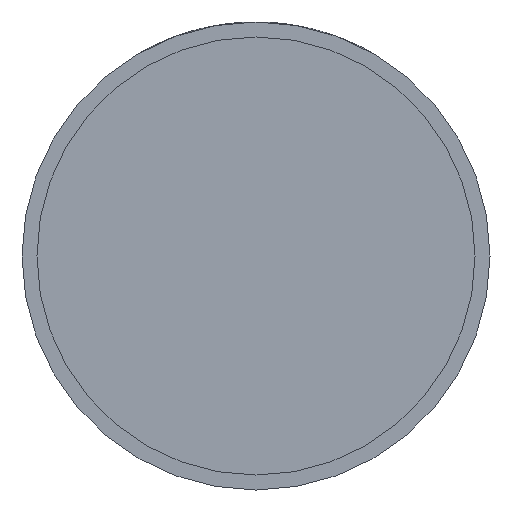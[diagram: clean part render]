
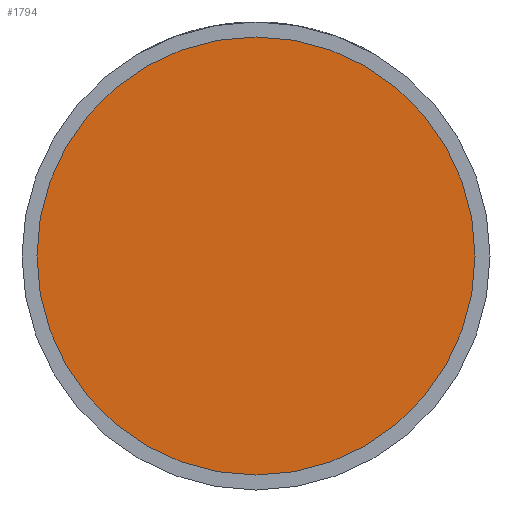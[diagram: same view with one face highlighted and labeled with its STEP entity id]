
A CAD part, front view. The second image highlights one B-rep face of the part: STEP entity #1794.
In plain terms, the highlighted planar face has unit normal (0, -1, 0).
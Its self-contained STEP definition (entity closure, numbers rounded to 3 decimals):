
#141 = CARTESIAN_POINT ( 'NONE',  ( 33.7, -20., 0. ) ) ;
#270 = EDGE_CURVE ( 'NONE', #3316, #2371, #3651, .T. ) ;
#325 = EDGE_CURVE ( 'NONE', #2371, #3316, #1433, .T. ) ;
#692 = ORIENTED_EDGE ( 'NONE', *, *, #270, .T. ) ;
#1222 = EDGE_LOOP ( 'NONE', ( #1321, #692 ) ) ;
#1262 = PLANE ( 'NONE',  #3628 ) ;
#1321 = ORIENTED_EDGE ( 'NONE', *, *, #325, .T. ) ;
#1433 = CIRCLE ( 'NONE', #1503, 33.7 ) ;
#1503 = AXIS2_PLACEMENT_3D ( 'NONE', #2794, #4138, #1806 ) ;
#1794 = ADVANCED_FACE ( 'NONE', ( #4231 ), #1262, .T. ) ;
#1806 = DIRECTION ( 'NONE',  ( 1., 0., 0. ) ) ;
#1855 = DIRECTION ( 'NONE',  ( 1., 0., 0. ) ) ;
#2064 = AXIS2_PLACEMENT_3D ( 'NONE', #3776, #3819, #2491 ) ;
#2371 = VERTEX_POINT ( 'NONE', #141 ) ;
#2491 = DIRECTION ( 'NONE',  ( 1., 0., 0. ) ) ;
#2794 = CARTESIAN_POINT ( 'NONE',  ( 0., -20., 0. ) ) ;
#3294 = CARTESIAN_POINT ( 'NONE',  ( -33.7, -20., 0. ) ) ;
#3316 = VERTEX_POINT ( 'NONE', #3294 ) ;
#3501 = DIRECTION ( 'NONE',  ( 0., -1., 0. ) ) ;
#3628 = AXIS2_PLACEMENT_3D ( 'NONE', #4164, #3501, #1855 ) ;
#3651 = CIRCLE ( 'NONE', #2064, 33.7 ) ;
#3776 = CARTESIAN_POINT ( 'NONE',  ( 0., -20., 0. ) ) ;
#3819 = DIRECTION ( 'NONE',  ( 0., -1., 0. ) ) ;
#4138 = DIRECTION ( 'NONE',  ( 0., -1., 0. ) ) ;
#4164 = CARTESIAN_POINT ( 'NONE',  ( 33.7, -20., 0. ) ) ;
#4231 = FACE_OUTER_BOUND ( 'NONE', #1222, .T. ) ;
